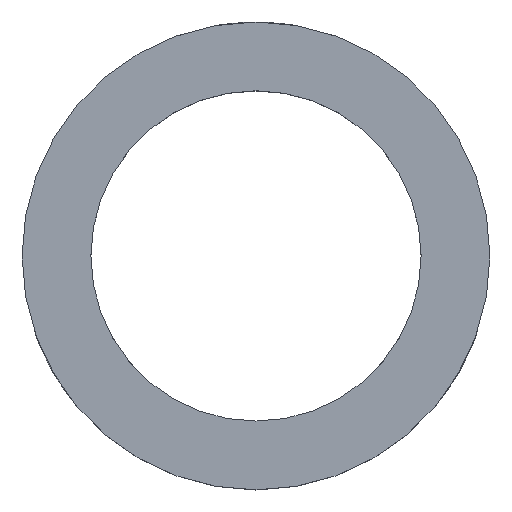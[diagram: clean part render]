
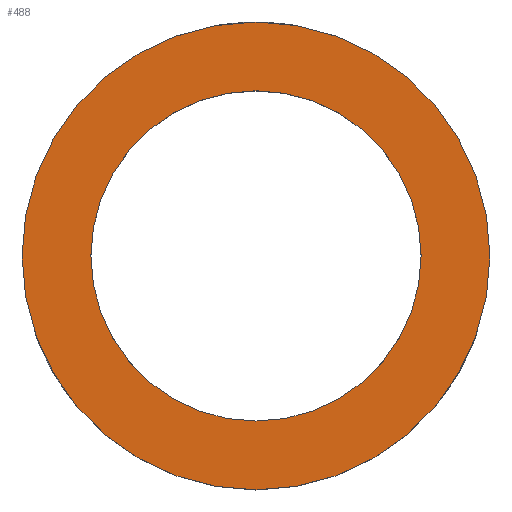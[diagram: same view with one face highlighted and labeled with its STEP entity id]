
A CAD part, top view. The second image highlights one B-rep face of the part: STEP entity #488.
In plain terms, the highlighted planar face has unit normal (0, 0, 1).
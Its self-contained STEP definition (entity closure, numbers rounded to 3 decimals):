
#24 = VERTEX_POINT('',#25);
#25 = CARTESIAN_POINT('',(169.,0.,72.));
#32 = CYLINDRICAL_SURFACE('',#33,34.);
#33 = AXIS2_PLACEMENT_3D('',#34,#35,#36);
#34 = CARTESIAN_POINT('',(135.,0.,62.));
#35 = DIRECTION('',(0.,0.,1.));
#36 = DIRECTION('',(1.,0.,-0.));
#51 = EDGE_CURVE('',#24,#24,#52,.T.);
#52 = SURFACE_CURVE('',#53,(#58,#65),.PCURVE_S1.);
#53 = CIRCLE('',#54,34.);
#54 = AXIS2_PLACEMENT_3D('',#55,#56,#57);
#55 = CARTESIAN_POINT('',(135.,0.,72.));
#56 = DIRECTION('',(0.,0.,1.));
#57 = DIRECTION('',(1.,0.,-0.));
#58 = PCURVE('',#32,#59);
#59 = DEFINITIONAL_REPRESENTATION('',(#60),#64);
#60 = LINE('',#61,#62);
#61 = CARTESIAN_POINT('',(0.,10.));
#62 = VECTOR('',#63,1.);
#63 = DIRECTION('',(1.,0.));
#64 = ( GEOMETRIC_REPRESENTATION_CONTEXT(2) 
PARAMETRIC_REPRESENTATION_CONTEXT() REPRESENTATION_CONTEXT('2D SPACE',''
  ) );
#65 = PCURVE('',#66,#71);
#66 = PLANE('',#67);
#67 = AXIS2_PLACEMENT_3D('',#68,#69,#70);
#68 = CARTESIAN_POINT('',(135.,0.,72.));
#69 = DIRECTION('',(0.,0.,1.));
#70 = DIRECTION('',(1.,0.,-0.));
#71 = DEFINITIONAL_REPRESENTATION('',(#72),#76);
#72 = CIRCLE('',#73,34.);
#73 = AXIS2_PLACEMENT_2D('',#74,#75);
#74 = CARTESIAN_POINT('',(0.,0.));
#75 = DIRECTION('',(1.,0.));
#76 = ( GEOMETRIC_REPRESENTATION_CONTEXT(2) 
PARAMETRIC_REPRESENTATION_CONTEXT() REPRESENTATION_CONTEXT('2D SPACE',''
  ) );
#477 = CYLINDRICAL_SURFACE('',#478,24.);
#478 = AXIS2_PLACEMENT_3D('',#479,#480,#481);
#479 = CARTESIAN_POINT('',(135.,0.,62.));
#480 = DIRECTION('',(0.,0.,1.));
#481 = DIRECTION('',(1.,0.,-0.));
#488 = ADVANCED_FACE('',(#489,#492),#66,.T.);
#489 = FACE_BOUND('',#490,.T.);
#490 = EDGE_LOOP('',(#491));
#491 = ORIENTED_EDGE('',*,*,#51,.T.);
#492 = FACE_BOUND('',#493,.T.);
#493 = EDGE_LOOP('',(#494));
#494 = ORIENTED_EDGE('',*,*,#495,.F.);
#495 = EDGE_CURVE('',#496,#496,#498,.T.);
#496 = VERTEX_POINT('',#497);
#497 = CARTESIAN_POINT('',(159.,0.,72.));
#498 = SURFACE_CURVE('',#499,(#504,#511),.PCURVE_S1.);
#499 = CIRCLE('',#500,24.);
#500 = AXIS2_PLACEMENT_3D('',#501,#502,#503);
#501 = CARTESIAN_POINT('',(135.,0.,72.));
#502 = DIRECTION('',(0.,0.,1.));
#503 = DIRECTION('',(1.,0.,-0.));
#504 = PCURVE('',#66,#505);
#505 = DEFINITIONAL_REPRESENTATION('',(#506),#510);
#506 = CIRCLE('',#507,24.);
#507 = AXIS2_PLACEMENT_2D('',#508,#509);
#508 = CARTESIAN_POINT('',(0.,0.));
#509 = DIRECTION('',(1.,0.));
#510 = ( GEOMETRIC_REPRESENTATION_CONTEXT(2) 
PARAMETRIC_REPRESENTATION_CONTEXT() REPRESENTATION_CONTEXT('2D SPACE',''
  ) );
#511 = PCURVE('',#477,#512);
#512 = DEFINITIONAL_REPRESENTATION('',(#513),#517);
#513 = LINE('',#514,#515);
#514 = CARTESIAN_POINT('',(0.,10.));
#515 = VECTOR('',#516,1.);
#516 = DIRECTION('',(1.,0.));
#517 = ( GEOMETRIC_REPRESENTATION_CONTEXT(2) 
PARAMETRIC_REPRESENTATION_CONTEXT() REPRESENTATION_CONTEXT('2D SPACE',''
  ) );
